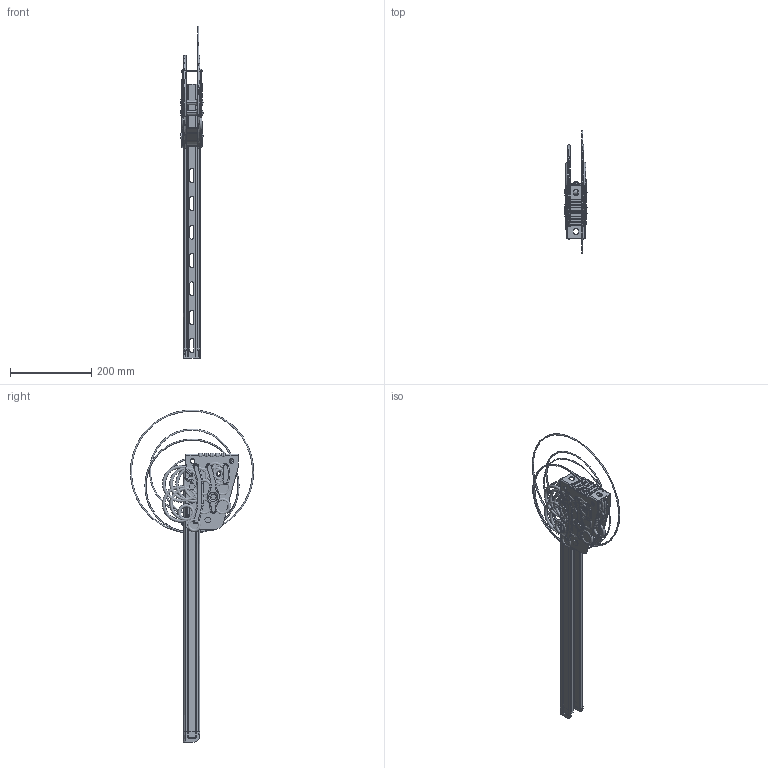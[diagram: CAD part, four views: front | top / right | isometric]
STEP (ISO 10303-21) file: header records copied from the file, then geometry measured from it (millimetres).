
FILE_DESCRIPTION((''),'2;1');
FILE_NAME('TL301712_ASM','2015-05-27T',('vpopolizio'),(''),'PRO/ENGINEER BY PARAMETRIC TECHNOLOGY CORPORATION, 2009360','PRO/ENGINEER BY PARAMETRIC TECHNOLOGY CORPORATION, 2009360','');
FILE_SCHEMA(('AUTOMOTIVE_DESIGN_CC2 { 1 2 10303 214 -1 1 5 2 }'));
Length unit declared in the file: millimetre
Products named in the file (8): TS301202; TR0550; TR0699; TS301718_PARTE1__AF0; TS301718_PARTE2__AF1; TS301718_ASM; TS300006; TL301712_ASM
Assembly tree (12 placements, depth 3):
  TL301712_ASM
    TS301202
    TR0550  x3
    TR0699  x4
    TS301718_ASM
      TS301718_PARTE1__AF0
      TS301718_PARTE2__AF1
    TS300006
Bounding box: 54.5 x 304.1 x 818.82 mm (x, y, z)
Surface area: 486031.7 mm2 (no closed solid volume)
Topology: 0 solids, 0 shells, 1138 faces, 6088 edges, 5968 vertices
Faces by surface type: bspline 938, torus 188, sphere 12
Entity records: 92597 total; most frequent: CARTESIAN_POINT 40132, DIRECTION 8691, TRIMMED_CURVE 6875, VECTOR 5491, LINE 5491, DEFINITIONAL_REPRESENTATION 5470, PCURVE 5470, COMPOSITE_CURVE_SEGMENT 5470
